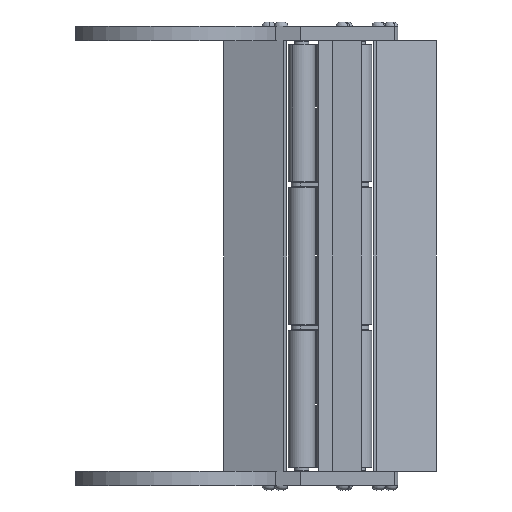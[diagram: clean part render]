
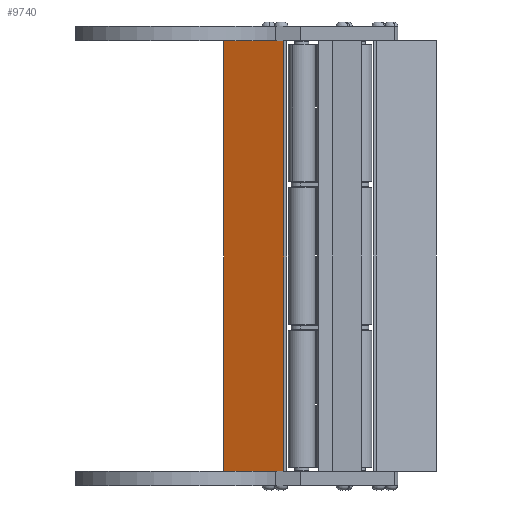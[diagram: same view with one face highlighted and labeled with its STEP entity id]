
A CAD part, front view. The second image highlights one B-rep face of the part: STEP entity #9740.
In plain terms, the highlighted planar face has unit normal (-0.342, -0.94, 0) as drawn and (0.342, -0.94, 0) by its records, which use the part's own axes.
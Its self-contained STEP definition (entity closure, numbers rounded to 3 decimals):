
#368 = EDGE_CURVE ( 'NONE', #13712, #17682, #2590, .T. ) ;
#520 = CARTESIAN_POINT ( 'NONE',  ( 1.655, 0., 240. ) ) ;
#843 = CARTESIAN_POINT ( 'NONE',  ( 35., 12.137, 240. ) ) ;
#871 = LINE ( 'NONE', #12566, #13856 ) ;
#907 = VECTOR ( 'NONE', #5868, 1000. ) ;
#1116 = FACE_OUTER_BOUND ( 'NONE', #9315, .T. ) ;
#1891 = ORIENTED_EDGE ( 'NONE', *, *, #368, .T. ) ;
#2590 = LINE ( 'NONE', #17174, #907 ) ;
#2789 = AXIS2_PLACEMENT_3D ( 'NONE', #843, #12530, #18392 ) ;
#3011 = CARTESIAN_POINT ( 'NONE',  ( 35., 12.137, 0. ) ) ;
#3814 = DIRECTION ( 'NONE',  ( 0., 0., -1. ) ) ;
#3868 = ORIENTED_EDGE ( 'NONE', *, *, #4523, .F. ) ;
#4523 = EDGE_CURVE ( 'NONE', #16782, #8617, #8093, .T. ) ;
#4910 = DIRECTION ( 'NONE',  ( 0.94, 0.342, 0. ) ) ;
#5048 = VECTOR ( 'NONE', #3814, 1000. ) ;
#5108 = CARTESIAN_POINT ( 'NONE',  ( 1.655, 0., 240. ) ) ;
#5868 = DIRECTION ( 'NONE',  ( 0.94, 0.342, 0. ) ) ;
#6290 = ORIENTED_EDGE ( 'NONE', *, *, #10770, .T. ) ;
#8093 = LINE ( 'NONE', #5108, #15285 ) ;
#8135 = LINE ( 'NONE', #15700, #5048 ) ;
#8339 = CARTESIAN_POINT ( 'NONE',  ( 1.655, 0., 0. ) ) ;
#8617 = VERTEX_POINT ( 'NONE', #18684 ) ;
#9315 = EDGE_LOOP ( 'NONE', ( #1891, #18016, #3868, #6290 ) ) ;
#9740 = ADVANCED_FACE ( 'NONE', ( #1116 ), #15607, .F. ) ;
#10770 = EDGE_CURVE ( 'NONE', #16782, #13712, #871, .T. ) ;
#12530 = DIRECTION ( 'NONE',  ( -0.342, 0.94, 0. ) ) ;
#12566 = CARTESIAN_POINT ( 'NONE',  ( 1.655, 0., 240. ) ) ;
#13712 = VERTEX_POINT ( 'NONE', #8339 ) ;
#13856 = VECTOR ( 'NONE', #18428, 1000. ) ;
#15285 = VECTOR ( 'NONE', #4910, 1000. ) ;
#15607 = PLANE ( 'NONE',  #2789 ) ;
#15700 = CARTESIAN_POINT ( 'NONE',  ( 35., 12.137, 240. ) ) ;
#16782 = VERTEX_POINT ( 'NONE', #520 ) ;
#17174 = CARTESIAN_POINT ( 'NONE',  ( 35., 12.137, 0. ) ) ;
#17532 = EDGE_CURVE ( 'NONE', #8617, #17682, #8135, .T. ) ;
#17682 = VERTEX_POINT ( 'NONE', #3011 ) ;
#18016 = ORIENTED_EDGE ( 'NONE', *, *, #17532, .F. ) ;
#18392 = DIRECTION ( 'NONE',  ( -0.94, -0.342, 0. ) ) ;
#18428 = DIRECTION ( 'NONE',  ( 0., 0., -1. ) ) ;
#18684 = CARTESIAN_POINT ( 'NONE',  ( 35., 12.137, 240. ) ) ;
